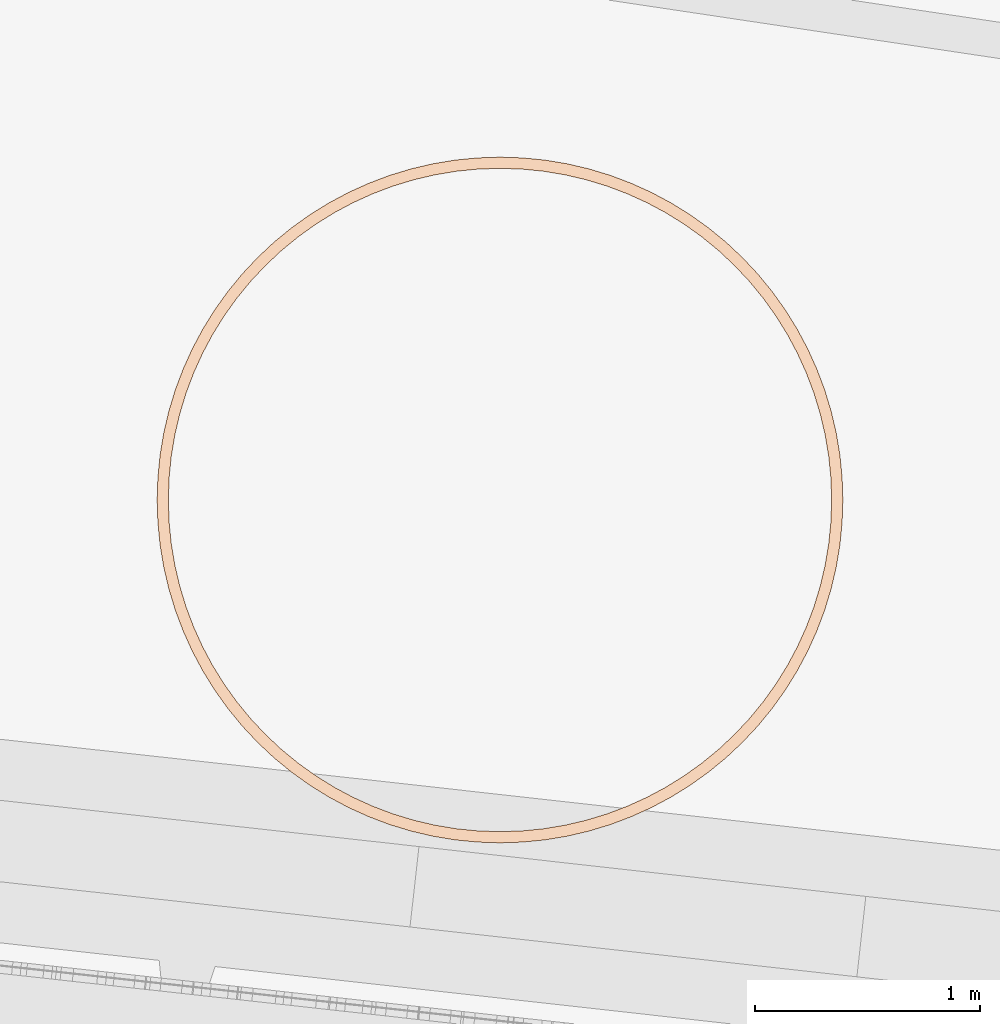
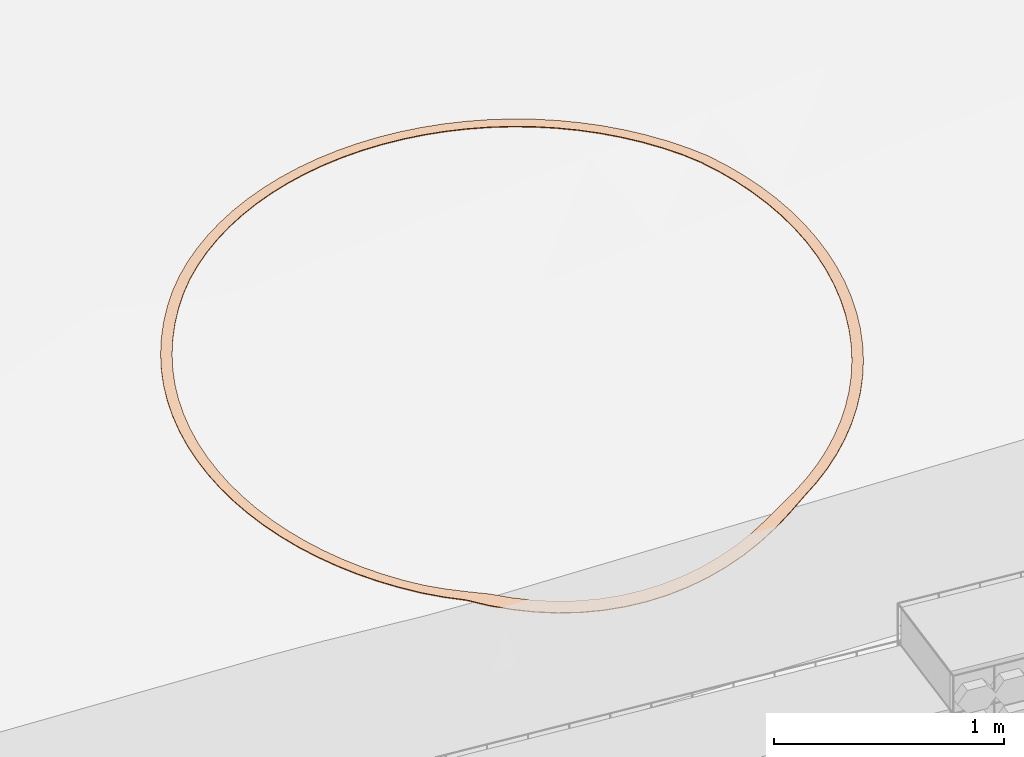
# Not in any storey, part 19 of 45: 1 geographic element.
"""IFC4 model written with IfcOpenShell, lengths in metres."""

from ifc_helpers import new_model, si_unit, direction, frame, origin_with_axes, place, context, subcontext, project, spatial, polygons, material, element, save


model = new_model("IFC4")

# Units and contexts
model_context = context("Model", 3, precision=1e-05, world=origin_with_axes(), true_north=direction((0.0, 1.0)))
body_context = subcontext(model_context, "Body", "Model", "MODEL_VIEW")
ifc_project = project(units=[si_unit("VOLUMEUNIT", "CUBIC_METRE"), si_unit("LENGTHUNIT", "METRE"), si_unit("AREAUNIT", "SQUARE_METRE")], contexts=[model_context])

# Site
site_placement = place(None, origin_with_axes())
site = spatial("IfcSite", under=ifc_project, at=site_placement, Name="Lares · Rua das Mercês · artigo 4771")

# Geographic element
ifc_material = material(Name="Marcação de plantação · linha no terreno", Category="stone")
geographic_element_placement = place(site_placement, frame((0.0, 0.0, 0.0), z_axis=(0.0, 0.0, 1.0), x_axis=(1.0, -1.03767253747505e-17, 0.0)))
element("IfcGeographicElement", 1, at=geographic_element_placement, inside=site, material=ifc_material, Name="Marcação no solo · árvore indicativa 04", ObjectType="Marcação no solo · árvore indicativa 04", PredefinedType="USERDEFINED", context=body_context, shape_type="Tessellation", body=[
    polygons([(25.6261115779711, 3.27682657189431, 13.1493449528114), (25.6261115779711, 3.27682657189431, 13.1533449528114), (25.6761115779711, 3.27682657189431, 13.1526276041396), (25.6761115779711, 3.27682657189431, 13.1566276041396), (25.6229534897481, 3.37329618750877, 13.1622537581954), (25.6229534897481, 3.37329618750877, 13.1662537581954), (25.67284643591, 3.37656634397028, 13.1659739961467), (25.67284643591, 3.37656634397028, 13.1699739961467), (25.6134927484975, 3.46935270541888, 13.174692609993), (25.6134927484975, 3.46935270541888, 13.178692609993), (25.6630649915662, 3.47587901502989, 13.1788345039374), (25.6630649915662, 3.47587901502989, 13.1828345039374), (25.5977698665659, 3.5645847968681, 13.186608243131), (25.5977698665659, 3.5645847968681, 13.190608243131), (25.646809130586, 3.5743393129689, 13.1911540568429), (25.646809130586, 3.5743393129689, 13.1951540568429), (25.5758521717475, 3.65858466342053, 13.1979496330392), (25.5758521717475, 3.65858466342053, 13.2019496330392), (25.6241484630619, 3.67152561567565, 13.2028799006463), (25.6241484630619, 3.67152561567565, 13.2068799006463), (25.5478335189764, 3.75094978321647, 13.2086682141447), (25.5478335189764, 3.75094978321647, 13.2126682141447), (25.5951800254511, 3.76702175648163, 13.2139618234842), (25.5951800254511, 3.76702175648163, 13.2179618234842), (25.5138338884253, 3.84128463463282, 13.2187180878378), (25.5138338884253, 3.84128463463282, 13.2227180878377), (25.5600278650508, 3.86041880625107, 13.2243523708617), (25.5600278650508, 3.86041880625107, 13.2283523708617), (25.4739988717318, 3.92920238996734, 13.2280562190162), (25.4739988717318, 3.92920238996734, 13.2320562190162), (25.5188425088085, 3.95131682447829, 13.2338854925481), (25.5188425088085, 3.95131682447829, 13.2378854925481), (25.4284990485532, 4.01432657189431, 13.2334932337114), (25.4284990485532, 4.01432657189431, 13.2374932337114), (25.4718003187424, 4.03932657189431, 13.2376260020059), (25.4718003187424, 4.03932657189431, 13.2416260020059), (25.3775292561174, 4.09629266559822, 13.2365890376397), (25.3775292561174, 4.09629266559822, 13.2405890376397), (25.4191027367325, 4.1240711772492, 13.2408267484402), (25.4191027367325, 4.1240711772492, 13.2448267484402), (25.3213077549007, 4.17474967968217, 13.2391495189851), (25.3213077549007, 4.17474967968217, 13.2431495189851), (25.3609754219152, 4.20518775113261, 13.2434740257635), (25.3609754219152, 4.20518775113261, 13.2474740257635), (25.2600752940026, 4.24936164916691, 13.2411637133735), (25.2600752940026, 4.24936164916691, 13.2451637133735), (25.2976672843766, 4.28232893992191, 13.2455564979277), (25.2976672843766, 4.28232893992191, 13.2495564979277), (25.1940940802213, 4.31980907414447, 13.2426229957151), (25.1940940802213, 4.31980907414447, 13.2466229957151), (25.2294494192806, 4.35516441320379, 13.2470652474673), (25.2294494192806, 4.35516441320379, 13.2510652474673), (25.1236466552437, 4.3857902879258, 13.2435211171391), (25.1236466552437, 4.3857902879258, 13.2475211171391), (25.1566139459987, 4.42338227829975, 13.2479938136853), (25.1566139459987, 4.42338227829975, 13.2519938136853), (25.049034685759, 4.44702274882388, 13.2438542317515), (25.049034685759, 4.44702274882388, 13.2478542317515), (25.0794727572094, 4.48669041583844, 13.2483382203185), (25.0794727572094, 4.48669041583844, 13.2523382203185), (24.970577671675, 4.50324425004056, 13.2436209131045), (24.970577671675, 4.50324425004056, 13.2476209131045), (24.998356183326, 4.54481773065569, 13.2480969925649), (24.998356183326, 4.54481773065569, 13.2520969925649), (24.8886115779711, 4.55421404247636, 13.2428221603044), (24.8886115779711, 4.55421404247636, 13.2468221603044), (24.9136115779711, 4.59751531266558, 13.2472711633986), (24.9136115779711, 4.59751531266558, 13.2512711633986), (24.8034873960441, 4.59971386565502, 13.2414613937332), (24.8034873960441, 4.59971386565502, 13.2454613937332), (24.8256018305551, 4.64455750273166, 13.2458742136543), (24.8256018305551, 4.64455750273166, 13.2498742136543), (24.7155696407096, 4.63954888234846, 13.2395616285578), (24.7155696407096, 4.63954888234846, 13.2435616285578), (24.7347038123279, 4.68574285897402, 13.2439627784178), (24.7347038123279, 4.68574285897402, 13.2479627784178), (24.6252347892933, 4.67354851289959, 13.2371568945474), (24.6252347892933, 4.67354851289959, 13.2411568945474), (24.6413067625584, 4.72089501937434, 13.2414765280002), (24.6413067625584, 4.72089501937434, 13.2454765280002), (24.5328696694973, 4.70156716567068, 13.2342064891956), (24.5328696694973, 4.70156716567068, 13.2382064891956), (24.5458106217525, 4.74986345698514, 13.2384261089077), (24.5458106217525, 4.74986345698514, 13.2424261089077), (24.4388698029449, 4.72348486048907, 13.2307230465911), (24.4388698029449, 4.72348486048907, 13.2347230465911), (24.4486243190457, 4.77252412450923, 13.234824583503), (24.4486243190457, 4.77252412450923, 13.238824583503), (24.3436377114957, 4.73920774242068, 13.2267214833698), (24.3436377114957, 4.73920774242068, 13.2307214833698), (24.3501640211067, 4.78877998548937, 13.2306873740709), (24.3501640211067, 4.78877998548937, 13.2346873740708), (24.2475811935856, 4.74866848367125, 13.2222189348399), (24.2475811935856, 4.74866848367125, 13.2262189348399), (24.2508513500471, 4.79856142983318, 13.2260321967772), (24.2508513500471, 4.79856142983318, 13.2300321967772), (24.1511115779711, 4.75182657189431, 13.2172346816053), (24.1511115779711, 4.75182657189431, 13.2212346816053), (24.1511115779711, 4.80182657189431, 13.2208789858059), (24.1511115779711, 4.80182657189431, 13.2248789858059), (24.0546419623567, 4.74866848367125, 13.2117900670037), (24.0546419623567, 4.74866848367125, 13.2157900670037), (24.0513718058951, 4.79856142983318, 13.2152498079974), (24.0513718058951, 4.79856142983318, 13.2192498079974), (23.9585854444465, 4.73920774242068, 13.2059084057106), (23.9585854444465, 4.73920774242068, 13.2099084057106), (23.9520591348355, 4.78877998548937, 13.2091687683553), (23.9520591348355, 4.78877998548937, 13.2131687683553), (23.8633533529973, 4.72348486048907, 13.1996148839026), (23.8633533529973, 4.72348486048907, 13.2036148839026), (23.8535988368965, 4.77252412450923, 13.2026619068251), (23.8535988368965, 4.77252412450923, 13.2066619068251), (23.7693534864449, 4.70156716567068, 13.1929364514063), (23.7693534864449, 4.70156716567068, 13.1969364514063), (23.7564125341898, 4.74986345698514, 13.1957570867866), (23.7564125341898, 4.74986345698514, 13.1997570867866), (23.676988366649, 4.67354851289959, 13.185901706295), (23.676988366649, 4.67354851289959, 13.189901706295), (23.6609163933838, 4.72089501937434, 13.1884838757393), (23.6609163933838, 4.72089501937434, 13.1924838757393), (23.5866535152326, 4.63954888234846, 13.1785407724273), (23.5866535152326, 4.63954888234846, 13.1825407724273), (23.5675193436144, 4.68574285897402, 13.1808734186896), (23.5675193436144, 4.68574285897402, 13.1848734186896), (23.4987357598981, 4.59971386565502, 13.1708851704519), (23.4987357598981, 4.59971386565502, 13.1748851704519), (23.4766213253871, 4.64455750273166, 13.1729583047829), (23.4766213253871, 4.64455750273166, 13.1769583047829), (23.4136115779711, 4.55421404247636, 13.162967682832), (23.4136115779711, 4.55421404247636, 13.166967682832), (23.3886115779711, 4.59751531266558, 13.1647724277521), (23.3886115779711, 4.59751531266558, 13.1687724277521), (23.3316454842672, 4.50324425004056, 13.1548222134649), (23.3316454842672, 4.50324425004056, 13.1588222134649), (23.3038669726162, 4.54481773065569, 13.1563508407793), (23.3038669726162, 4.54481773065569, 13.1603508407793), (23.2531884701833, 4.44702274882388, 13.1465494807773), (23.2531884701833, 4.44702274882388, 13.1505494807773), (23.2227503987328, 4.48669041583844, 13.1477350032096), (23.2227503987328, 4.48669041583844, 13.1517350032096), (23.1785765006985, 4.3857902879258, 13.1381309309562), (23.1785765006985, 4.3857902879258, 13.1421309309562), (23.1456092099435, 4.42338227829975, 13.1390310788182), (23.1456092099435, 4.42338227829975, 13.1430310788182), (23.108129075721, 4.31980907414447, 13.125837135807), (23.108129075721, 4.31980907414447, 13.129837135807), (23.0727737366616, 4.35516441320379, 13.1283229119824), (23.0727737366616, 4.35516441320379, 13.1323229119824), (23.0421478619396, 4.24936164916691, 13.1119271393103), (23.0421478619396, 4.24936164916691, 13.1159271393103), (23.0045558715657, 4.28232893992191, 13.1139413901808), (23.0045558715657, 4.28232893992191, 13.1179413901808), (22.9809154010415, 4.17474967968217, 13.0977626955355), (22.9809154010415, 4.17474967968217, 13.1017626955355), (22.941247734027, 4.20518775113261, 13.0992967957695), (22.941247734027, 4.20518775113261, 13.1032967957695), (22.9246938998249, 4.09629266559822, 13.0834044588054), (22.9246938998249, 4.09629266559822, 13.0874044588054), (22.8831204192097, 4.1240711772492, 13.0844518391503), (22.8831204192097, 4.1240711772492, 13.0884518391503), (22.8737241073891, 4.01432657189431, 13.068913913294), (22.8737241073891, 4.01432657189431, 13.072913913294), (22.8304228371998, 4.03932657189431, 13.0694700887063), (22.8304228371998, 4.03932657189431, 13.0734700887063), (22.8282242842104, 3.92920238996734, 13.0543531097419), (22.8282242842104, 3.92920238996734, 13.0583531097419), (22.7833806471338, 3.95131682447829, 13.0560940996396), (22.7833806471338, 3.95131682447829, 13.0600940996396), (22.788389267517, 3.84128463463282, 13.0422144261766), (22.788389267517, 3.84128463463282, 13.0462144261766), (22.7421952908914, 3.86041880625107, 13.0441731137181), (22.7421952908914, 3.86041880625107, 13.0481731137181), (22.7543896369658, 3.75094978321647, 13.0304368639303), (22.7543896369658, 3.75094978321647, 13.0344368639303), (22.7070431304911, 3.76702175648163, 13.0319963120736), (22.7070431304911, 3.76702175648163, 13.0359963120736), (22.7263709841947, 3.65858466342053, 13.0184623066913), (22.7263709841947, 3.65858466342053, 13.0224623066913), (22.6780746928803, 3.67152561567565, 13.0196158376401), (22.6780746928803, 3.67152561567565, 13.0236158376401), (22.7044532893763, 3.5645847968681, 13.0063420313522), (22.7044532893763, 3.5645847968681, 13.0103420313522), (22.6554140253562, 3.5743393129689, 13.0070847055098), (22.6554140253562, 3.5743393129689, 13.0110847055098), (22.6887304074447, 3.46935270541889, 12.9941279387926), (22.6887304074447, 3.46935270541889, 12.9981279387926), (22.6391581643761, 3.47587901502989, 12.9944565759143), (22.6391581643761, 3.47587901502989, 12.9984565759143), (22.6792696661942, 3.37329618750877, 12.9818723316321), (22.6792696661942, 3.37329618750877, 12.9858723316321), (22.6293767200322, 3.37656634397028, 12.9817855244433), (22.6293767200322, 3.37656634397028, 12.9857855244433), (22.6761115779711, 3.27682657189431, 12.969627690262), (22.6761115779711, 3.27682657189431, 12.973627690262), (22.6261115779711, 3.27682657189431, 12.9691258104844), (22.6261115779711, 3.27682657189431, 12.9731258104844), (22.6792696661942, 3.18035695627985, 12.9574464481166), (22.6792696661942, 3.18035695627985, 12.9614464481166), (22.6293767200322, 3.17708679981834, 12.9565316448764), (22.6293767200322, 3.17708679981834, 12.9605316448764), (22.6887304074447, 3.08430043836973, 12.9453807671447), (22.6887304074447, 3.08430043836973, 12.9493807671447), (22.6391581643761, 3.07777412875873, 12.9440569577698), (22.6391581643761, 3.07777412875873, 12.9480569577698), (22.7044532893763, 2.98906834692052, 12.9334823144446), (22.7044532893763, 2.98906834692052, 12.9374823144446), (22.6554140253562, 2.97931383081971, 12.9317551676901), (22.6554140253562, 2.97931383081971, 12.9357551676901), (22.7263709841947, 2.89506848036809, 12.9218020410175), (22.7263709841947, 2.89506848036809, 12.9258020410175), (22.6780746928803, 2.88212752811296, 12.9196789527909), (22.6780746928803, 2.88212752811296, 12.9236789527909), (22.7543896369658, 2.80270336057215, 12.9103899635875), (22.7543896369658, 2.80270336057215, 12.9143899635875), (22.7070431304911, 2.78663138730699, 12.9078800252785), (22.7070431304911, 2.78663138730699, 12.9118800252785), (22.788389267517, 2.7123685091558, 12.899294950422), (22.788389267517, 2.7123685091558, 12.903294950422), (22.7421952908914, 2.69323433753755, 12.8964089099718), (22.7421952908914, 2.69323433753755, 12.9004089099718), (22.8282242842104, 2.62445075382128, 12.8885645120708), (22.8282242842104, 2.62445075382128, 12.8925645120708), (22.7833806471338, 2.60233631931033, 12.8853147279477), (22.7833806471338, 2.60233631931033, 12.8893147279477), (22.8737241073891, 2.53932657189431, 12.8782445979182), (22.8737241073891, 2.53932657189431, 12.8822445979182), (22.8304228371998, 2.51432657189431, 12.8746449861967), (22.8304228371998, 2.51432657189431, 12.8786449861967), (22.9246938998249, 2.4573604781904, 12.8683793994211), (22.9246938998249, 2.4573604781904, 12.8723793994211), (22.8831204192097, 2.42958196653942, 12.8644453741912), (22.8831204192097, 2.42958196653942, 12.8684453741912), (22.9809154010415, 2.37890346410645, 12.8590111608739), (22.9809154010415, 2.37890346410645, 12.8630111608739), (22.941247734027, 2.34846539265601, 12.8547595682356), (22.941247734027, 2.34846539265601, 12.8587595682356), (23.0421478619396, 2.30429149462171, 12.8501799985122), (23.0421478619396, 2.30429149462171, 12.8541799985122), (23.0045558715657, 2.2713242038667, 12.845629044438), (23.0045558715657, 2.2713242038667, 12.849629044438), (23.108129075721, 2.23384406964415, 12.8422264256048), (23.108129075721, 2.23384406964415, 12.8462264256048), (23.0727737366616, 2.19848873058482, 12.837092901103), (23.0727737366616, 2.19848873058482, 12.841092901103), (23.1785765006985, 2.16786285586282, 12.8378806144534), (23.1785765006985, 2.16786285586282, 12.8418806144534), (23.1456092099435, 2.13027086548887, 12.8306051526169), (23.1456092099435, 2.13027086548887, 12.8346051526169), (23.2531884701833, 2.10663039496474, 12.8344538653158), (23.2531884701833, 2.10663039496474, 12.8384538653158), (23.2227503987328, 2.06696272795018, 12.8259258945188), (23.2227503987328, 2.06696272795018, 12.8299258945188), (23.3316454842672, 2.05040889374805, 12.8290161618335), (23.3316454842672, 2.05040889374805, 12.8330161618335), (23.3038669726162, 2.00883541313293, 12.8037931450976), (23.3038669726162, 2.00883541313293, 12.8077931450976), (23.4136115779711, 1.99943910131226, 12.8107953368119), (23.4136115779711, 1.99943910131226, 12.8147953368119), (23.3886115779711, 1.95613783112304, 12.7849546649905), (23.3886115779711, 1.95613783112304, 12.7889546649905), (23.4987357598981, 1.95393927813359, 12.7958387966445), (23.4987357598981, 1.95393927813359, 12.7998387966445), (23.4766213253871, 1.90909564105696, 12.7694911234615), (23.4766213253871, 1.90909564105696, 12.7734911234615), (23.5866535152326, 1.91410426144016, 12.7842105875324), (23.5866535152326, 1.91410426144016, 12.7882105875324), (23.5675193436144, 1.8679102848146, 12.7574687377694), (23.5675193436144, 1.8679102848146, 12.7614687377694), (23.676988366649, 1.88010463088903, 12.7759805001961), (23.676988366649, 1.88010463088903, 12.7799805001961), (23.6609163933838, 1.83275812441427, 12.7489537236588), (23.6609163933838, 1.83275812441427, 12.7529537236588), (23.7693534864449, 1.85208597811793, 12.7711902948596), (23.7693534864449, 1.85208597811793, 12.7751902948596), (23.7564125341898, 1.80378968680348, 12.7440011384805), (23.7564125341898, 1.80378968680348, 12.7480011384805), (23.8633533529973, 1.83016828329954, 12.7698347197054), (23.8633533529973, 1.83016828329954, 12.7738347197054), (23.8535988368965, 1.78112901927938, 12.7425996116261), (23.8535988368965, 1.78112901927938, 12.7465996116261), (23.9585854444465, 1.81444540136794, 12.7719195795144), (23.9585854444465, 1.81444540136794, 12.7759195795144), (23.9520591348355, 1.76487315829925, 12.744755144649), (23.9520591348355, 1.76487315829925, 12.7487551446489), (24.0546419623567, 1.80498466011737, 12.7774359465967), (24.0546419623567, 1.80498466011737, 12.7814359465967), (24.0513718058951, 1.75509171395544, 12.7504585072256), (24.0513718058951, 1.75509171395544, 12.7544585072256), (24.1511115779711, 1.80182657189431, 12.7863601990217), (24.1511115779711, 1.80182657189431, 12.7903601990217), (24.1511115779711, 1.75182657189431, 12.7596852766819), (24.1511115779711, 1.75182657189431, 12.7636852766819), (24.2475811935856, 1.80498466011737, 12.7986541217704), (24.2475811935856, 1.80498466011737, 12.8026541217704), (24.2508513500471, 1.75509171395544, 12.7723959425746), (24.2508513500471, 1.75509171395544, 12.7763959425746), (24.3436377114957, 1.81444540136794, 12.8142650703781), (24.3436377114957, 1.81444540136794, 12.8182650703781), (24.3501640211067, 1.76487315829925, 12.788536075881), (24.3501640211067, 1.76487315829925, 12.792536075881), (24.4388698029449, 1.83016828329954, 12.8331261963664), (24.4388698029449, 1.83016828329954, 12.8371261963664), (24.4486243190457, 1.78112901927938, 12.8080365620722), (24.4486243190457, 1.78112901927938, 12.8120365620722), (24.5328696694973, 1.85208597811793, 12.855156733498), (24.5328696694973, 1.85208597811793, 12.859156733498), (24.5458106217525, 1.80378968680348, 12.8308138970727), (24.5458106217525, 1.80378968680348, 12.8348138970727), (24.6252347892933, 1.88010463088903, 12.8802623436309), (24.6252347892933, 1.88010463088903, 12.8842623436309), (24.6413067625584, 1.83275812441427, 12.8567705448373), (24.6413067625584, 1.83275812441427, 12.8607705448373), (24.7155696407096, 1.91410426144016, 12.9042874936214), (24.7155696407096, 1.91410426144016, 12.9082874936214), (24.7347038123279, 1.8679102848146, 12.8857953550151), (24.7347038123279, 1.8679102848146, 12.8897953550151), (24.8034873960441, 1.95393927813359, 12.9154755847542), (24.8034873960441, 1.95393927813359, 12.9194755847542), (24.8256018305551, 1.90909564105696, 12.910830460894), (24.8256018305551, 1.90909564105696, 12.914830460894), (24.8886115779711, 1.99943910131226, 12.9272504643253), (24.8886115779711, 1.99943910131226, 12.9312504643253), (24.9136115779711, 1.95613783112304, 12.9230044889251), (24.9136115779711, 1.95613783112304, 12.9270044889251), (24.970577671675, 2.05040889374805, 12.9395617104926), (24.970577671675, 2.05040889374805, 12.9435617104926), (24.998356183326, 2.00883541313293, 12.935733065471), (24.998356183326, 2.00883541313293, 12.939733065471), (25.049034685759, 2.10663039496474, 12.9523566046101), (25.049034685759, 2.10663039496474, 12.9563566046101), (25.0794727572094, 2.06696272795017, 12.9489616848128), (25.0794727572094, 2.06696272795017, 12.9529616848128), (25.1236466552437, 2.16786285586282, 12.9655803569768), (25.1236466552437, 2.16786285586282, 12.9695803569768), (25.1566139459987, 2.13027086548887, 12.9626336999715), (25.1566139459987, 2.13027086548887, 12.9666336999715), (25.1940940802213, 2.23384406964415, 12.9791763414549), (25.1940940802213, 2.23384406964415, 12.9831763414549), (25.2294494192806, 2.19848873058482, 12.9766905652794), (25.2294494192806, 2.19848873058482, 12.9806905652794), (25.2600752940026, 2.30429149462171, 12.9930863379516), (25.2600752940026, 2.30429149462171, 12.9970863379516), (25.2976672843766, 2.2713242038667, 12.9910720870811), (25.2976672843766, 2.2713242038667, 12.9950720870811), (25.3213077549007, 2.37890346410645, 13.0072507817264), (25.3213077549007, 2.37890346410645, 13.0112507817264), (25.3609754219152, 2.34846539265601, 13.0057166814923), (25.3609754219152, 2.34846539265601, 13.0097166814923), (25.3775292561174, 2.45736047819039, 13.0216090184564), (25.3775292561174, 2.45736047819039, 13.0256090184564), (25.4191027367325, 2.42958196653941, 13.0205616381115), (25.4191027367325, 2.42958196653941, 13.0245616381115), (25.4284990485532, 2.53932657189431, 13.0360995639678), (25.4284990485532, 2.53932657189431, 13.0400995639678), (25.4718003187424, 2.51432657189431, 13.0355433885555), (25.4718003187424, 2.51432657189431, 13.0395433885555), (25.4739988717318, 2.62445075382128, 13.05066036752), (25.4739988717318, 2.62445075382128, 13.05466036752), (25.5188425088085, 2.60233631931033, 13.0505977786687), (25.5188425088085, 2.60233631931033, 13.0545977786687), (25.5138338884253, 2.7123685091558, 13.0652290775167), (25.5138338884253, 2.7123685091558, 13.0692290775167), (25.5600278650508, 2.69323433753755, 13.0656603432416), (25.5600278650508, 2.69323433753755, 13.0696603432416), (25.5478335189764, 2.80270336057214, 13.0797433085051), (25.5478335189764, 2.80270336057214, 13.0837433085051), (25.5951800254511, 2.78663138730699, 13.0806665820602), (25.5951800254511, 2.78663138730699, 13.0846665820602), (25.5758521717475, 2.89506848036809, 13.0941409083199), (25.5758521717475, 2.89506848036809, 13.0981409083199), (25.6241484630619, 2.88212752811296, 13.095552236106), (25.6241484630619, 2.88212752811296, 13.099552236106), (25.5977698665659, 2.98906834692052, 13.1083602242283), (25.5977698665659, 2.98906834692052, 13.1123602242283), (25.646809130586, 2.97931383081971, 13.1102535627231), (25.646809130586, 2.97931383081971, 13.1142535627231), (25.6134927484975, 3.08430043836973, 13.1223403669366), (25.6134927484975, 3.08430043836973, 13.1263403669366), (25.6630649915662, 3.07777412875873, 13.1247076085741), (25.6630649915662, 3.07777412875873, 13.1287076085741), (25.6229534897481, 3.18035695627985, 13.1360214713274), (25.6229534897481, 3.18035695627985, 13.1400214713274), (25.67284643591, 3.17708679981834, 13.1388524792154), (25.67284643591, 3.17708679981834, 13.1428524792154)], [[[5, 7, 3, 1]], [[4, 8, 6, 2]], [[2, 6, 5, 1]], [[7, 8, 4, 3]], [[9, 11, 7, 5]], [[8, 12, 10, 6]], [[6, 10, 9, 5]], [[11, 12, 8, 7]], [[13, 15, 11, 9]], [[12, 16, 14, 10]], [[10, 14, 13, 9]], [[15, 16, 12, 11]], [[17, 19, 15, 13]], [[16, 20, 18, 14]], [[14, 18, 17, 13]], [[19, 20, 16, 15]], [[21, 23, 19, 17]], [[20, 24, 22, 18]], [[18, 22, 21, 17]], [[23, 24, 20, 19]], [[25, 27, 23, 21]], [[24, 28, 26, 22]], [[22, 26, 25, 21]], [[27, 28, 24, 23]], [[29, 31, 27, 25]], [[28, 32, 30, 26]], [[26, 30, 29, 25]], [[31, 32, 28, 27]], [[33, 35, 31, 29]], [[32, 36, 34, 30]], [[30, 34, 33, 29]], [[35, 36, 32, 31]], [[37, 39, 35, 33]], [[36, 40, 38, 34]], [[34, 38, 37, 33]], [[39, 40, 36, 35]], [[41, 43, 39, 37]], [[40, 44, 42, 38]], [[38, 42, 41, 37]], [[43, 44, 40, 39]], [[45, 47, 43, 41]], [[44, 48, 46, 42]], [[42, 46, 45, 41]], [[47, 48, 44, 43]], [[49, 51, 47, 45]], [[48, 52, 50, 46]], [[46, 50, 49, 45]], [[51, 52, 48, 47]], [[53, 55, 51, 49]], [[52, 56, 54, 50]], [[50, 54, 53, 49]], [[55, 56, 52, 51]], [[57, 59, 55, 53]], [[56, 60, 58, 54]], [[54, 58, 57, 53]], [[59, 60, 56, 55]], [[61, 63, 59, 57]], [[60, 64, 62, 58]], [[58, 62, 61, 57]], [[63, 64, 60, 59]], [[65, 67, 63, 61]], [[64, 68, 66, 62]], [[62, 66, 65, 61]], [[67, 68, 64, 63]], [[69, 71, 67, 65]], [[68, 72, 70, 66]], [[66, 70, 69, 65]], [[71, 72, 68, 67]], [[73, 75, 71, 69]], [[72, 76, 74, 70]], [[70, 74, 73, 69]], [[75, 76, 72, 71]], [[77, 79, 75, 73]], [[76, 80, 78, 74]], [[74, 78, 77, 73]], [[79, 80, 76, 75]], [[81, 83, 79, 77]], [[80, 84, 82, 78]], [[78, 82, 81, 77]], [[83, 84, 80, 79]], [[85, 87, 83, 81]], [[84, 88, 86, 82]], [[82, 86, 85, 81]], [[87, 88, 84, 83]], [[89, 91, 87, 85]], [[88, 92, 90, 86]], [[86, 90, 89, 85]], [[91, 92, 88, 87]], [[93, 95, 91, 89]], [[92, 96, 94, 90]], [[90, 94, 93, 89]], [[95, 96, 92, 91]], [[97, 99, 95, 93]], [[96, 100, 98, 94]], [[94, 98, 97, 93]], [[99, 100, 96, 95]], [[101, 103, 99, 97]], [[100, 104, 102, 98]], [[98, 102, 101, 97]], [[103, 104, 100, 99]], [[105, 107, 103, 101]], [[104, 108, 106, 102]], [[102, 106, 105, 101]], [[107, 108, 104, 103]], [[109, 111, 107, 105]], [[108, 112, 110, 106]], [[106, 110, 109, 105]], [[111, 112, 108, 107]], [[113, 115, 111, 109]], [[112, 116, 114, 110]], [[110, 114, 113, 109]], [[115, 116, 112, 111]], [[117, 119, 115, 113]], [[116, 120, 118, 114]], [[114, 118, 117, 113]], [[119, 120, 116, 115]], [[121, 123, 119, 117]], [[120, 124, 122, 118]], [[118, 122, 121, 117]], [[123, 124, 120, 119]], [[125, 127, 123, 121]], [[124, 128, 126, 122]], [[122, 126, 125, 121]], [[127, 128, 124, 123]], [[129, 131, 127, 125]], [[128, 132, 130, 126]], [[126, 130, 129, 125]], [[131, 132, 128, 127]], [[133, 135, 131, 129]], [[132, 136, 134, 130]], [[130, 134, 133, 129]], [[135, 136, 132, 131]], [[137, 139, 135, 133]], [[136, 140, 138, 134]], [[134, 138, 137, 133]], [[139, 140, 136, 135]], [[141, 143, 139, 137]], [[140, 144, 142, 138]], [[138, 142, 141, 137]], [[143, 144, 140, 139]], [[145, 147, 143, 141]], [[144, 148, 146, 142]], [[142, 146, 145, 141]], [[147, 148, 144, 143]], [[149, 151, 147, 145]], [[148, 152, 150, 146]], [[146, 150, 149, 145]], [[151, 152, 148, 147]], [[153, 155, 151, 149]], [[152, 156, 154, 150]], [[150, 154, 153, 149]], [[155, 156, 152, 151]], [[157, 159, 155, 153]], [[156, 160, 158, 154]], [[154, 158, 157, 153]], [[159, 160, 156, 155]], [[161, 163, 159, 157]], [[160, 164, 162, 158]], [[158, 162, 161, 157]], [[163, 164, 160, 159]], [[165, 167, 163, 161]], [[164, 168, 166, 162]], [[162, 166, 165, 161]], [[167, 168, 164, 163]], [[169, 171, 167, 165]], [[168, 172, 170, 166]], [[166, 170, 169, 165]], [[171, 172, 168, 167]], [[173, 175, 171, 169]], [[172, 176, 174, 170]], [[170, 174, 173, 169]], [[175, 176, 172, 171]], [[177, 179, 175, 173]], [[176, 180, 178, 174]], [[174, 178, 177, 173]], [[179, 180, 176, 175]], [[181, 183, 179, 177]], [[180, 184, 182, 178]], [[178, 182, 181, 177]], [[183, 184, 180, 179]], [[185, 187, 183, 181]], [[184, 188, 186, 182]], [[182, 186, 185, 181]], [[187, 188, 184, 183]], [[189, 191, 187, 185]], [[188, 192, 190, 186]], [[186, 190, 189, 185]], [[191, 192, 188, 187]], [[193, 195, 191, 189]], [[192, 196, 194, 190]], [[190, 194, 193, 189]], [[195, 196, 192, 191]], [[197, 199, 195, 193]], [[196, 200, 198, 194]], [[194, 198, 197, 193]], [[199, 200, 196, 195]], [[201, 203, 199, 197]], [[200, 204, 202, 198]], [[198, 202, 201, 197]], [[203, 204, 200, 199]], [[205, 207, 203, 201]], [[204, 208, 206, 202]], [[202, 206, 205, 201]], [[207, 208, 204, 203]], [[209, 211, 207, 205]], [[208, 212, 210, 206]], [[206, 210, 209, 205]], [[211, 212, 208, 207]], [[213, 215, 211, 209]], [[212, 216, 214, 210]], [[210, 214, 213, 209]], [[215, 216, 212, 211]], [[217, 219, 215, 213]], [[216, 220, 218, 214]], [[214, 218, 217, 213]], [[219, 220, 216, 215]], [[221, 223, 219, 217]], [[220, 224, 222, 218]], [[218, 222, 221, 217]], [[223, 224, 220, 219]], [[225, 227, 223, 221]], [[224, 228, 226, 222]], [[222, 226, 225, 221]], [[227, 228, 224, 223]], [[229, 231, 227, 225]], [[228, 232, 230, 226]], [[226, 230, 229, 225]], [[231, 232, 228, 227]], [[233, 235, 231, 229]], [[232, 236, 234, 230]], [[230, 234, 233, 229]], [[235, 236, 232, 231]], [[237, 239, 235, 233]], [[236, 240, 238, 234]], [[234, 238, 237, 233]], [[239, 240, 236, 235]], [[241, 243, 239, 237]], [[240, 244, 242, 238]], [[238, 242, 241, 237]], [[243, 244, 240, 239]], [[245, 247, 243, 241]], [[244, 248, 246, 242]], [[242, 246, 245, 241]], [[247, 248, 244, 243]], [[249, 251, 247, 245]], [[248, 252, 250, 246]], [[246, 250, 249, 245]], [[251, 252, 248, 247]], [[253, 255, 251, 249]], [[252, 256, 254, 250]], [[250, 254, 253, 249]], [[255, 256, 252, 251]], [[257, 259, 255, 253]], [[256, 260, 258, 254]], [[254, 258, 257, 253]], [[259, 260, 256, 255]], [[261, 263, 259, 257]], [[260, 264, 262, 258]], [[258, 262, 261, 257]], [[263, 264, 260, 259]], [[265, 267, 263, 261]], [[264, 268, 266, 262]], [[262, 266, 265, 261]], [[267, 268, 264, 263]], [[269, 271, 267, 265]], [[268, 272, 270, 266]], [[266, 270, 269, 265]], [[271, 272, 268, 267]], [[273, 275, 271, 269]], [[272, 276, 274, 270]], [[270, 274, 273, 269]], [[275, 276, 272, 271]], [[277, 279, 275, 273]], [[276, 280, 278, 274]], [[274, 278, 277, 273]], [[279, 280, 276, 275]], [[281, 283, 279, 277]], [[280, 284, 282, 278]], [[278, 282, 281, 277]], [[283, 284, 280, 279]], [[285, 287, 283, 281]], [[284, 288, 286, 282]], [[282, 286, 285, 281]], [[287, 288, 284, 283]], [[289, 291, 287, 285]], [[288, 292, 290, 286]], [[286, 290, 289, 285]], [[291, 292, 288, 287]], [[293, 295, 291, 289]], [[292, 296, 294, 290]], [[290, 294, 293, 289]], [[295, 296, 292, 291]], [[297, 299, 295, 293]], [[296, 300, 298, 294]], [[294, 298, 297, 293]], [[299, 300, 296, 295]], [[301, 303, 299, 297]], [[300, 304, 302, 298]], [[298, 302, 301, 297]], [[303, 304, 300, 299]], [[305, 307, 303, 301]], [[304, 308, 306, 302]], [[302, 306, 305, 301]], [[307, 308, 304, 303]], [[309, 311, 307, 305]], [[308, 312, 310, 306]], [[306, 310, 309, 305]], [[311, 312, 308, 307]], [[313, 315, 311, 309]], [[312, 316, 314, 310]], [[310, 314, 313, 309]], [[315, 316, 312, 311]], [[317, 319, 315, 313]], [[316, 320, 318, 314]], [[314, 318, 317, 313]], [[319, 320, 316, 315]], [[321, 323, 319, 317]], [[320, 324, 322, 318]], [[318, 322, 321, 317]], [[323, 324, 320, 319]], [[325, 327, 323, 321]], [[324, 328, 326, 322]], [[322, 326, 325, 321]], [[327, 328, 324, 323]], [[329, 331, 327, 325]], [[328, 332, 330, 326]], [[326, 330, 329, 325]], [[331, 332, 328, 327]], [[333, 335, 331, 329]], [[332, 336, 334, 330]], [[330, 334, 333, 329]], [[335, 336, 332, 331]], [[337, 339, 335, 333]], [[336, 340, 338, 334]], [[334, 338, 337, 333]], [[339, 340, 336, 335]], [[341, 343, 339, 337]], [[340, 344, 342, 338]], [[338, 342, 341, 337]], [[343, 344, 340, 339]], [[345, 347, 343, 341]], [[344, 348, 346, 342]], [[342, 346, 345, 341]], [[347, 348, 344, 343]], [[349, 351, 347, 345]], [[348, 352, 350, 346]], [[346, 350, 349, 345]], [[351, 352, 348, 347]], [[353, 355, 351, 349]], [[352, 356, 354, 350]], [[350, 354, 353, 349]], [[355, 356, 352, 351]], [[357, 359, 355, 353]], [[356, 360, 358, 354]], [[354, 358, 357, 353]], [[359, 360, 356, 355]], [[361, 363, 359, 357]], [[360, 364, 362, 358]], [[358, 362, 361, 357]], [[363, 364, 360, 359]], [[365, 367, 363, 361]], [[364, 368, 366, 362]], [[362, 366, 365, 361]], [[367, 368, 364, 363]], [[369, 371, 367, 365]], [[368, 372, 370, 366]], [[366, 370, 369, 365]], [[371, 372, 368, 367]], [[373, 375, 371, 369]], [[372, 376, 374, 370]], [[370, 374, 373, 369]], [[375, 376, 372, 371]], [[377, 379, 375, 373]], [[376, 380, 378, 374]], [[374, 378, 377, 373]], [[379, 380, 376, 375]], [[381, 383, 379, 377]], [[380, 384, 382, 378]], [[378, 382, 381, 377]], [[383, 384, 380, 379]], [[1, 3, 383, 381]], [[384, 4, 2, 382]], [[382, 2, 1, 381]], [[3, 4, 384, 383]]]),
])

save(model, "model.ifc")
